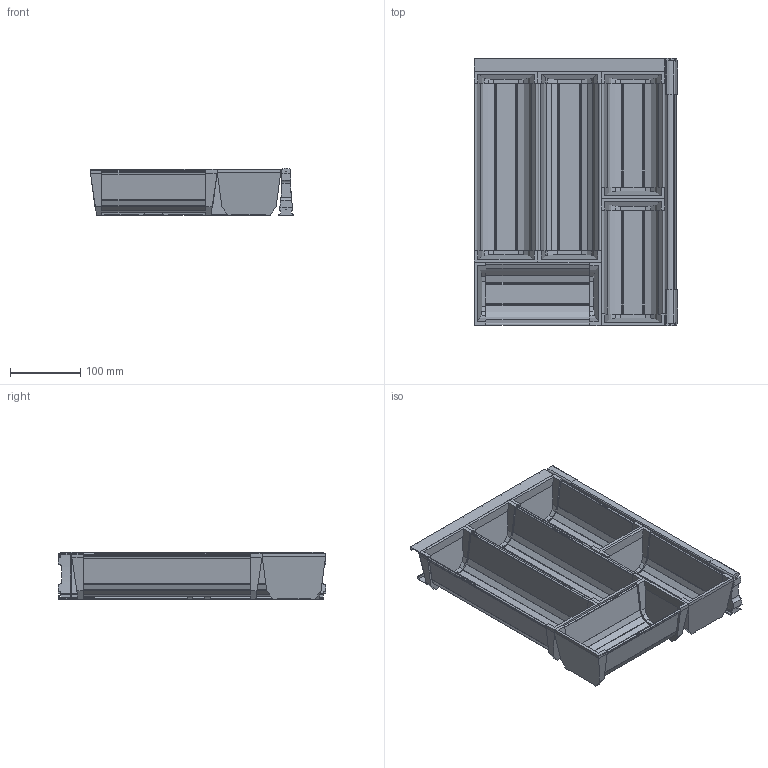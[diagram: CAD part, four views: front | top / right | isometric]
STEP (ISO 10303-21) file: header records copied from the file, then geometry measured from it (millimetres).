
FILE_DESCRIPTION (( 'STEP AP214' ), '1' );
FILE_NAME ('Inoxsys_B3_NL-400.STEP', '2010-08-17T11:53:45', ( 'grass' ), ( '' ), 'SwSTEP 2.0', 'SolidWorks 2010', '' );
FILE_SCHEMA (( 'AUTOMOTIVE_DESIGN' ));
Length unit declared in the file: millimetre
Products named in the file (1): Inoxsys_B3_NL-400
Bounding box: 290.01 x 381 x 67.5 mm (x, y, z)
Volume: 687357.2 mm3; surface area: 615031.6 mm2
Topology: 7 solids, 7 shells, 701 faces, 2031 edges, 1354 vertices
Faces by surface type: plane 471, cylinder 230
Entity records: 30952 total; most frequent: CARTESIAN_POINT 4345, ORIENTED_EDGE 4062, DIRECTION 3831, EDGE_CURVE 2031, LINE 1535, VECTOR 1535, VERTEX_POINT 1354, AXIS2_PLACEMENT_3D 1148
